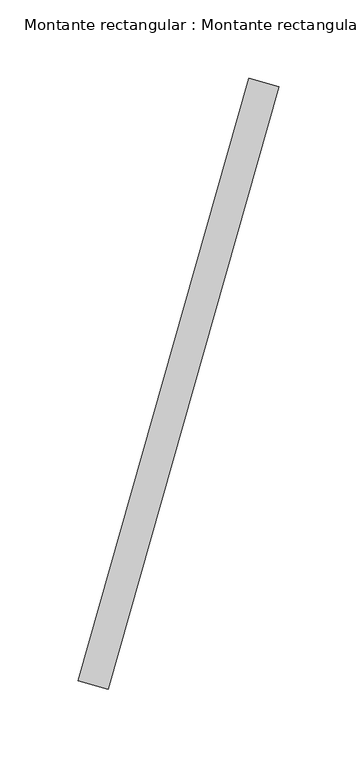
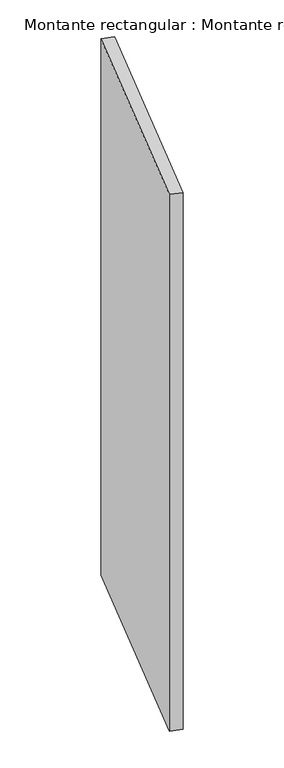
"""IFC4 building model written with IfcOpenShell, lengths in millimetres: member geometry, Montante rectangular : Montante rectangular - 10 x 40 cm."""

from ifc_helpers import new_model, si_unit, frame, origin, place, context, project, spatial, polyline, outline, extrude, source, transform, mapped, element, save


def montante_rectangular_montante_rectangular_10_x_40_cm_63d3ba0e(model_context):
    return source(origin(), model_context, "Body", "SweptSolid", [
        extrude(outline(polyline([(64.1444505, 139.6984172), (-44.9019927, -245.1507393), (-64.1444505, -239.6984172), (44.9019927, 145.1507393), (64.1444505, 139.6984172)])), frame((0.0, 0.0, -936.3914841), z_axis=(0.0, 0.0, 1.0), x_axis=(1.0, 0.0, 0.0)), (0.0, 0.0, 1.0), 936.3914841),
    ])


if __name__ == "__main__":
    model = new_model("IFC4")
    model_context = context("Model", 3, world=origin())
    ifc_project = project(units=[si_unit("LENGTHUNIT", "METRE", prefix="MILLI")], contexts=[model_context])
    site = spatial("IfcSite", under=ifc_project)
    building = spatial("IfcBuilding", under=site)
    placement = place(None, origin())
    montante_rectangular_montante_rectangular_10_x_40_cm_shape = montante_rectangular_montante_rectangular_10_x_40_cm_63d3ba0e(model_context)
    element("IfcMember", 1, ObjectType="Montante rectangular : Montante rectangular - 10 x 40 cm", at=placement, inside=building, context=model_context, shape_type="MappedRepresentation", body=[
        mapped(montante_rectangular_montante_rectangular_10_x_40_cm_shape, transform((0.0, 0.0, 0.0), x_axis=(1.0, 0.0, 0.0), y_axis=(0.0, 1.0, 0.0), z_axis=(0.0, 0.0, 1.0))),
    ])
    save(model, "model.ifc")
